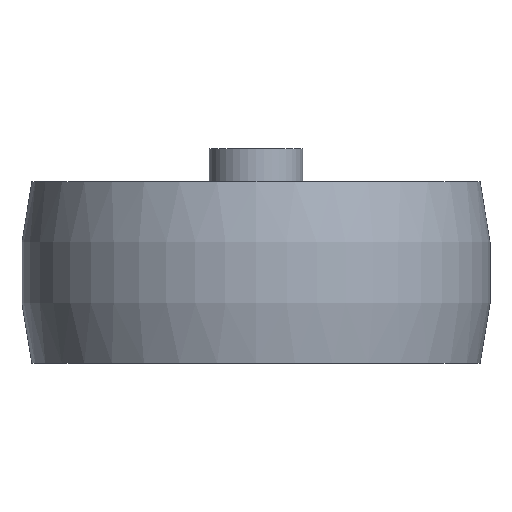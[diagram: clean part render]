
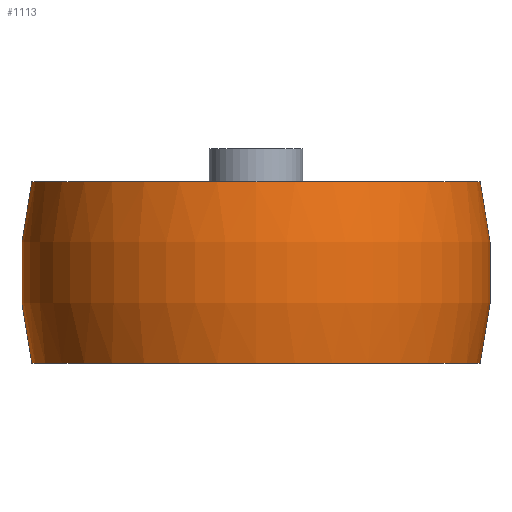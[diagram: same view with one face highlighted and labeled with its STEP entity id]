
A CAD part, front view. The second image highlights one B-rep face of the part: STEP entity #1113.
In plain terms, the highlighted toroidal (fillet/blend) face has major radius 21 mm and minor radius 56 mm.
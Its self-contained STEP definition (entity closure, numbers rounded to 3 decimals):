
#49 = DIRECTION ( 'NONE',  ( 1., 0., 0. ) ) ;
#113 = DIRECTION ( 'NONE',  ( 0., 0., -1. ) ) ;
#229 = CARTESIAN_POINT ( 'NONE',  ( 33.348, 0., 26.75 ) ) ;
#234 = DIRECTION ( 'NONE',  ( 0., 0., 1. ) ) ;
#305 = CARTESIAN_POINT ( 'NONE',  ( 0., 0., 13.25 ) ) ;
#459 = CIRCLE ( 'NONE', #1198, 56. ) ;
#470 = CARTESIAN_POINT ( 'NONE',  ( 33.348, 0., -0.25 ) ) ;
#549 = ORIENTED_EDGE ( 'NONE', *, *, #587, .T. ) ;
#576 = DIRECTION ( 'NONE',  ( -1., 0., 0. ) ) ;
#587 = EDGE_CURVE ( 'NONE', #987, #2139, #459, .T. ) ;
#648 = DIRECTION ( 'NONE',  ( 0., -1., 0. ) ) ;
#705 = AXIS2_PLACEMENT_3D ( 'NONE', #305, #1666, #1683 ) ;
#719 = DIRECTION ( 'NONE',  ( 0., 0., 1. ) ) ;
#738 = ORIENTED_EDGE ( 'NONE', *, *, #765, .F. ) ;
#739 = CIRCLE ( 'NONE', #1093, 33.348 ) ;
#765 = EDGE_CURVE ( 'NONE', #1976, #915, #1858, .T. ) ;
#915 = VERTEX_POINT ( 'NONE', #1985 ) ;
#984 = CARTESIAN_POINT ( 'NONE',  ( -21., 0., 13.25 ) ) ;
#987 = VERTEX_POINT ( 'NONE', #470 ) ;
#1054 = ORIENTED_EDGE ( 'NONE', *, *, #1808, .F. ) ;
#1093 = AXIS2_PLACEMENT_3D ( 'NONE', #1747, #234, #49 ) ;
#1113 = ADVANCED_FACE ( 'NONE', ( #1695 ), #1487, .T. ) ;
#1135 = AXIS2_PLACEMENT_3D ( 'NONE', #2048, #1924, #576 ) ;
#1198 = AXIS2_PLACEMENT_3D ( 'NONE', #984, #648, #113 ) ;
#1216 = EDGE_CURVE ( 'NONE', #1976, #987, #739, .T. ) ;
#1222 = DIRECTION ( 'NONE',  ( 1., 0., 0. ) ) ;
#1353 = CARTESIAN_POINT ( 'NONE',  ( -33.348, 0., -0.25 ) ) ;
#1487 = TOROIDAL_SURFACE ( 'NONE', #705, -21., 56. ) ;
#1666 = DIRECTION ( 'NONE',  ( 0., 0., 1. ) ) ;
#1667 = ORIENTED_EDGE ( 'NONE', *, *, #1216, .T. ) ;
#1683 = DIRECTION ( 'NONE',  ( 1., 0., 0. ) ) ;
#1695 = FACE_OUTER_BOUND ( 'NONE', #2117, .T. ) ;
#1747 = CARTESIAN_POINT ( 'NONE',  ( 0., 0., -0.25 ) ) ;
#1808 = EDGE_CURVE ( 'NONE', #915, #2139, #2118, .T. ) ;
#1858 = CIRCLE ( 'NONE', #1135, 56. ) ;
#1924 = DIRECTION ( 'NONE',  ( 0., 1., 0. ) ) ;
#1976 = VERTEX_POINT ( 'NONE', #1353 ) ;
#1985 = CARTESIAN_POINT ( 'NONE',  ( -33.348, 0., 26.75 ) ) ;
#2048 = CARTESIAN_POINT ( 'NONE',  ( 21., 0., 13.25 ) ) ;
#2068 = CARTESIAN_POINT ( 'NONE',  ( 0., 0., 26.75 ) ) ;
#2117 = EDGE_LOOP ( 'NONE', ( #738, #1667, #549, #1054 ) ) ;
#2118 = CIRCLE ( 'NONE', #2121, 33.348 ) ;
#2121 = AXIS2_PLACEMENT_3D ( 'NONE', #2068, #719, #1222 ) ;
#2139 = VERTEX_POINT ( 'NONE', #229 ) ;
